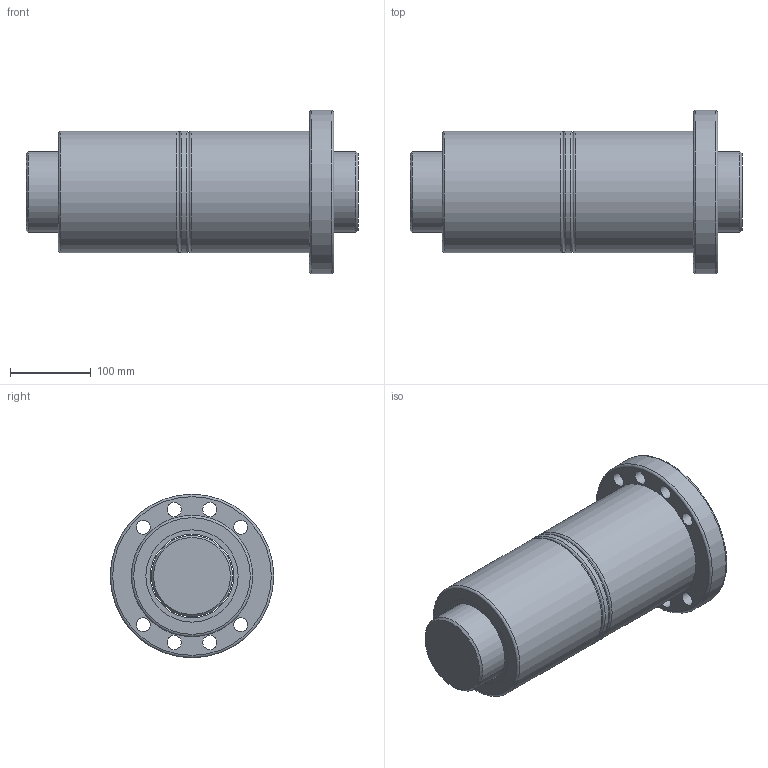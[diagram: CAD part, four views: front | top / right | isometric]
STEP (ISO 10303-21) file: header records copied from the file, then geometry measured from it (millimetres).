
FILE_DESCRIPTION(/* description */ (''),/* implementation_level */ '2;1');
FILE_NAME(/* name */ 'DFU10020',/* time_stamp */ '2007-10-26T10:51:32+08:00',/* author */ (''),/* organization */ (''),/* preprocessor_version */ 'ST-DEVELOPER v9',/* originating_system */ 'EDS PLM SOLUTIONS - UNIGRAPHICS NX 1.0',/* authorisation */ '');
FILE_SCHEMA (('CONFIG_CONTROL_DESIGN'));
Length unit declared in the file: millimetre
Products named in the file (1): FANNDA0400ci
Bounding box: 410 x 202 x 202 mm (x, y, z)
Volume: 6760125.2 mm3; surface area: 537142 mm2
Topology: 6 solids, 6 shells, 46 faces, 84 edges, 53 vertices
Faces by surface type: cylinder 22, plane 15, torus 7, cone 2
Full cylindrical faces by diameter (mm): 17.5 x8, 100 x1, 103 x5, 114 x4, 150 x3, 202 x1
Entity records: 1122 total; most frequent: DIRECTION 200, CARTESIAN_POINT 153, EDGE_LOOP 106, ORIENTED_EDGE 106, AXIS2_PLACEMENT_3D 100, FACE_BOUND 89, VERTEX_POINT 53, EDGE_CURVE 53
